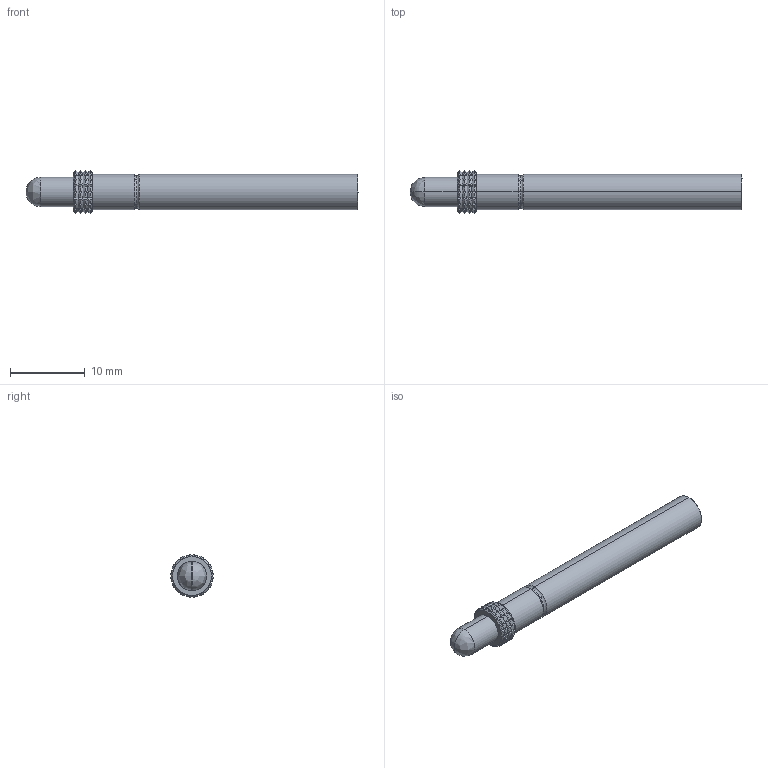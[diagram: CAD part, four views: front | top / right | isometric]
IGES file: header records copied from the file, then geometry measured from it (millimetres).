
Start section: SolidWorks IGES file using analytic representation for surfaces
Global section: file name: O:\PYLON\IGES FILES\P4301\P4301-2R FULL.IGS; native system: SolidWorks 2015; preprocessor: SolidWorks 2015; author: kgolden; date: 171020.124627; units: inch
Bounding box: 44.45 x 5.7 x 5.7 mm (x, y, z)
Surface area: 1235.9 mm2 (no closed solid volume)
Topology: 0 solids, 0 shells, 374 faces, 1965 edges, 1965 vertices
Faces by surface type: revolution 193, bspline 181
